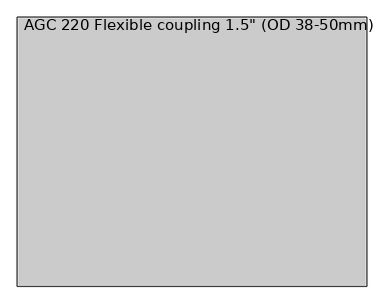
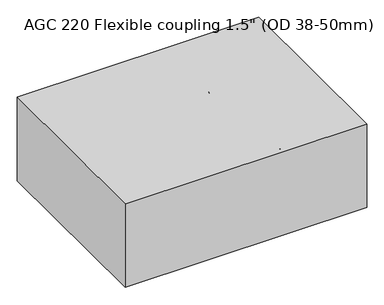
"""IFC4 building model written with IfcOpenShell, lengths in millimetres: unitary equipment geometry."""

from ifc_helpers import new_model, si_unit, point, frame, frame_2d, origin, origin_with_axes, place, context, project, spatial, polyline, circle_curve, ellipse_curve, trimmed, segment, composite_curve, outline, extrude, source, transform, mapped, element, save
from ifc_brep_helpers import plane_surface, cylinder_surface, revolved_surface, advanced_brep


def unitary_equipment_3ba87c7d(model_context):
    return source(origin(), model_context, "Body", "SolidModel", [
        advanced_brep(
        [(-484.5, 277.5, 317.0), (-484.5, 328.5, 317.0), (-478.9, 328.5, 317.0), (-478.9, 277.5, 317.0), (-484.5, 276.5, 317.0), (-484.5, 329.5, 317.0), (-479.6057737, 276.5, 317.0), (-479.6057737, 329.5, 317.0), (-478.0057737, 272.0, 317.0), (-478.0057737, 334.0, 317.0), (-463.6792408, 272.0, 317.0), (-463.6792408, 334.0, 317.0), (-462.1792408, 276.5, 317.0), (-462.1792408, 329.5, 317.0), (-441.1097736, 276.5, 317.0), (-441.1097736, 329.5, 317.0), (-437.1328335, 278.0698448, 317.0), (-437.1328335, 327.9301552, 317.0), (-437.5, 279.0, 317.0), (-437.5, 327.0, 317.0), (-441.3, 277.5, 317.0), (-441.3, 328.5, 317.0), (-462.9, 277.5, 317.0), (-462.9, 328.5, 317.0), (-464.4, 273.0, 317.0), (-464.4, 333.0, 317.0), (-477.3, 273.0, 317.0), (-477.3, 333.0, 317.0)],
        [
            (0, 1, circle_curve(frame((-484.5, 303.0, 317.0), z_axis=(-1.0, 0.0, 0.0), x_axis=(0.0, 1.0, 0.0)), 25.5)),
            (1, 2),
            (2, 3, circle_curve(frame((-478.9, 303.0, 317.0), z_axis=(1.0, 0.0, 0.0), x_axis=(0.0, 1.0, 0.0)), 25.5)),
            (3, 0),
            (1, 0, circle_curve(frame((-484.5, 303.0, 317.0), z_axis=(-1.0, 0.0, 0.0), x_axis=(0.0, 1.0, 0.0)), 25.5)),
            (3, 2, circle_curve(frame((-478.9, 303.0, 317.0), z_axis=(1.0, 0.0, 0.0), x_axis=(0.0, 1.0, 0.0)), 25.5)),
            (4, 5, circle_curve(frame((-484.5, 303.0, 317.0), z_axis=(-1.0, 0.0, 0.0), x_axis=(0.0, 1.0, 0.0)), 26.5)),
            (5, 1),
            (0, 4),
            (5, 4, circle_curve(frame((-484.5, 303.0, 317.0), z_axis=(-1.0, 0.0, 0.0), x_axis=(0.0, 1.0, 0.0)), 26.5)),
            (6, 7, circle_curve(frame((-479.6057737, 303.0, 317.0), z_axis=(-1.0, 0.0, 0.0), x_axis=(0.0, 1.0, 0.0)), 26.5)),
            (7, 5),
            (4, 6),
            (7, 6, circle_curve(frame((-479.6057737, 303.0, 317.0), z_axis=(-1.0, 0.0, 0.0), x_axis=(0.0, 1.0, 0.0)), 26.5)),
            (8, 9, circle_curve(frame((-478.0057737, 303.0, 317.0), z_axis=(-1.0, 0.0, 0.0), x_axis=(0.0, 1.0, 0.0)), 31.0)),
            (9, 7),
            (6, 8),
            (9, 8, circle_curve(frame((-478.0057737, 303.0, 317.0), z_axis=(-1.0, 0.0, 0.0), x_axis=(0.0, 1.0, 0.0)), 31.0)),
            (10, 11, circle_curve(frame((-463.6792408, 303.0, 317.0), z_axis=(-1.0, 0.0, 0.0), x_axis=(0.0, 1.0, 0.0)), 31.0)),
            (11, 9),
            (8, 10),
            (11, 10, circle_curve(frame((-463.6792408, 303.0, 317.0), z_axis=(-1.0, 0.0, 0.0), x_axis=(0.0, 1.0, 0.0)), 31.0)),
            (12, 13, circle_curve(frame((-462.1792408, 303.0, 317.0), z_axis=(-1.0, 0.0, 0.0), x_axis=(0.0, 1.0, 0.0)), 26.5)),
            (13, 11),
            (10, 12),
            (13, 12, circle_curve(frame((-462.1792408, 303.0, 317.0), z_axis=(-1.0, 0.0, 0.0), x_axis=(0.0, 1.0, 0.0)), 26.5)),
            (14, 15, circle_curve(frame((-441.1097736, 303.0, 317.0), z_axis=(-1.0, 0.0, 0.0), x_axis=(0.0, 1.0, 0.0)), 26.5)),
            (15, 13),
            (12, 14),
            (15, 14, circle_curve(frame((-441.1097736, 303.0, 317.0), z_axis=(-1.0, 0.0, 0.0), x_axis=(0.0, 1.0, 0.0)), 26.5)),
            (16, 17, circle_curve(frame((-437.1328335, 303.0, 317.0), z_axis=(-1.0, 0.0, 0.0), x_axis=(0.0, 1.0, 0.0)), 24.9301552)),
            (17, 15),
            (14, 16),
            (17, 16, circle_curve(frame((-437.1328335, 303.0, 317.0), z_axis=(-1.0, 0.0, 0.0), x_axis=(0.0, 1.0, 0.0)), 24.9301552)),
            (18, 19, circle_curve(frame((-437.5, 303.0, 317.0), z_axis=(-1.0, 0.0, 0.0), x_axis=(0.0, 1.0, 0.0)), 24.0)),
            (19, 17),
            (16, 18),
            (19, 18, circle_curve(frame((-437.5, 303.0, 317.0), z_axis=(-1.0, 0.0, 0.0), x_axis=(0.0, 1.0, 0.0)), 24.0)),
            (20, 21, circle_curve(frame((-441.3, 303.0, 317.0), z_axis=(-1.0, 0.0, 0.0), x_axis=(0.0, 1.0, 0.0)), 25.5)),
            (21, 19),
            (18, 20),
            (21, 20, circle_curve(frame((-441.3, 303.0, 317.0), z_axis=(-1.0, 0.0, 0.0), x_axis=(0.0, 1.0, 0.0)), 25.5)),
            (22, 23, circle_curve(frame((-462.9, 303.0, 317.0), z_axis=(-1.0, 0.0, 0.0), x_axis=(0.0, 1.0, 0.0)), 25.5)),
            (23, 21),
            (20, 22),
            (23, 22, circle_curve(frame((-462.9, 303.0, 317.0), z_axis=(-1.0, 0.0, 0.0), x_axis=(0.0, 1.0, 0.0)), 25.5)),
            (24, 25, circle_curve(frame((-464.4, 303.0, 317.0), z_axis=(-1.0, 0.0, 0.0), x_axis=(0.0, 1.0, 0.0)), 30.0)),
            (25, 23),
            (22, 24),
            (25, 24, circle_curve(frame((-464.4, 303.0, 317.0), z_axis=(-1.0, 0.0, 0.0), x_axis=(0.0, 1.0, 0.0)), 30.0)),
            (26, 27, circle_curve(frame((-477.3, 303.0, 317.0), z_axis=(-1.0, 0.0, 0.0), x_axis=(0.0, 1.0, 0.0)), 30.0)),
            (27, 25),
            (24, 26),
            (27, 26, circle_curve(frame((-477.3, 303.0, 317.0), z_axis=(-1.0, 0.0, 0.0), x_axis=(0.0, 1.0, 0.0)), 30.0)),
            (2, 27),
            (26, 3),
        ],
        [
            revolved_surface(polyline([(-478.9, 328.5, 317.0), (-484.5, 328.5, 317.0)]), (-425.031054, 303.0, 317.0), (1.0, 0.0, 0.0)),
            plane_surface(frame((-484.5, 303.0, 317.0), z_axis=(-1.0, 0.0, 0.0), x_axis=(0.0, 1.0, 0.0))),
            cylinder_surface(frame((-425.031054, 303.0, 317.0), z_axis=(1.0, 0.0, 0.0), x_axis=(0.0, 1.0, 0.0)), 26.5),
            revolved_surface(polyline([(-479.6057737, 329.5, 317.0), (-478.0057737, 334.0, 317.0)]), (-425.031054, 303.0, 317.0), (1.0, 0.0, 0.0)),
            cylinder_surface(frame((-425.031054, 303.0, 317.0), z_axis=(1.0, 0.0, 0.0), x_axis=(0.0, 1.0, 0.0)), 31.0),
            revolved_surface(polyline([(-463.6792408, 334.0, 317.0), (-462.1792408, 329.5, 317.0)]), (-425.031054, 303.0, 317.0), (1.0, 0.0, 0.0)),
            revolved_surface(polyline([(-441.1097736, 329.5, 317.0), (-437.1328335, 327.9301552, 317.0)]), (-425.031054, 303.0, 317.0), (1.0, 0.0, 0.0)),
            revolved_surface(polyline([(-437.1328335, 327.9301552, 317.0), (-437.5, 327.0, 317.0)]), (-425.031054, 303.0, 317.0), (1.0, 0.0, 0.0)),
            revolved_surface(polyline([(-437.5, 327.0, 317.0), (-441.3, 328.5, 317.0)]), (-425.031054, 303.0, 317.0), (1.0, 0.0, 0.0)),
            revolved_surface(polyline([(-441.3, 328.5, 317.0), (-462.9, 328.5, 317.0)]), (-425.031054, 303.0, 317.0), (1.0, 0.0, 0.0)),
            revolved_surface(polyline([(-462.9, 328.5, 317.0), (-464.4, 333.0, 317.0)]), (-425.031054, 303.0, 317.0), (1.0, 0.0, 0.0)),
            revolved_surface(polyline([(-464.4, 333.0, 317.0), (-477.3, 333.0, 317.0)]), (-425.031054, 303.0, 317.0), (1.0, 0.0, 0.0)),
            revolved_surface(polyline([(-477.3, 333.0, 317.0), (-478.9, 328.5, 317.0)]), (-425.031054, 303.0, 317.0), (1.0, 0.0, 0.0)),
        ],
        [
            (0, [[1, 2, 3, 4]]),
            (0, [[5, -4, 6, -2]]),
            (1, [[7, 8, -1, 9]]),
            (1, [[10, -9, -5, -8]]),
            (2, [[11, 12, -7, 13]]),
            (2, [[14, -13, -10, -12]]),
            (3, [[15, 16, -11, 17]]),
            (3, [[18, -17, -14, -16]]),
            (4, [[19, 20, -15, 21]]),
            (4, [[22, -21, -18, -20]]),
            (5, [[23, 24, -19, 25]]),
            (5, [[26, -25, -22, -24]]),
            (2, [[27, 28, -23, 29]]),
            (2, [[30, -29, -26, -28]]),
            (6, [[31, 32, -27, 33]]),
            (6, [[34, -33, -30, -32]]),
            (7, [[35, 36, -31, 37]]),
            (7, [[38, -37, -34, -36]]),
            (8, [[39, 40, -35, 41]]),
            (8, [[42, -41, -38, -40]]),
            (9, [[43, 44, -39, 45]]),
            (9, [[46, -45, -42, -44]]),
            (10, [[47, 48, -43, 49]]),
            (10, [[50, -49, -46, -48]]),
            (11, [[51, 52, -47, 53]]),
            (11, [[54, -53, -50, -52]]),
            (12, [[-3, 55, -51, 56]]),
            (12, [[-6, -56, -54, -55]]),
        ],
    ),
        advanced_brep(
        [(-372.5, 251.8, 317.0), (-432.5, 251.8, 317.0), (-428.0, 253.4, 317.0), (-377.0, 253.4, 317.0), (-372.5, 238.9, 317.0), (-432.5, 238.9, 317.0), (-377.0, 237.4, 317.0), (-428.0, 237.4, 317.0), (-377.0, 217.0, 317.0), (-428.0, 217.0, 317.0), (-378.5, 212.0, 317.0), (-426.5, 212.0, 317.0), (-377.5421737, 211.7126521, 317.0), (-427.4578263, 211.7126521, 317.0), (-376.0, 216.8532312, 317.0), (-429.0, 216.8532312, 317.0), (-376.0, 236.6792408, 317.0), (-429.0, 236.6792408, 317.0), (-371.7425527, 238.0983899, 317.0), (-433.2574473, 238.0983899, 317.0), (-371.7425527, 252.5920147, 317.0), (-433.2574473, 252.5920147, 317.0), (-376.0, 254.1057737, 317.0), (-429.0, 254.1057737, 317.0), (-376.0, 259.0, 317.0), (-429.0, 259.0, 317.0), (-377.0, 259.0, 317.0), (-428.0, 259.0, 317.0)],
        [
            (0, 1, circle_curve(frame((-402.5, 251.8, 317.0), z_axis=(0.0, -1.0, 0.0), x_axis=(-1.0, 0.0, 0.0)), 30.0)),
            (1, 2),
            (2, 3, circle_curve(frame((-402.5, 253.4, 317.0), z_axis=(0.0, 1.0, 0.0), x_axis=(-1.0, 0.0, 0.0)), 25.5)),
            (3, 0),
            (1, 0, circle_curve(frame((-402.5, 251.8, 317.0), z_axis=(0.0, -1.0, 0.0), x_axis=(-1.0, 0.0, 0.0)), 30.0)),
            (3, 2, circle_curve(frame((-402.5, 253.4, 317.0), z_axis=(0.0, 1.0, 0.0), x_axis=(-1.0, 0.0, 0.0)), 25.5)),
            (4, 5, circle_curve(frame((-402.5, 238.9, 317.0), z_axis=(0.0, -1.0, 0.0), x_axis=(-1.0, 0.0, 0.0)), 30.0)),
            (5, 1),
            (0, 4),
            (5, 4, circle_curve(frame((-402.5, 238.9, 317.0), z_axis=(0.0, -1.0, 0.0), x_axis=(-1.0, 0.0, 0.0)), 30.0)),
            (6, 7, circle_curve(frame((-402.5, 237.4, 317.0), z_axis=(0.0, -1.0, 0.0), x_axis=(-1.0, 0.0, 0.0)), 25.5)),
            (7, 5),
            (4, 6),
            (7, 6, circle_curve(frame((-402.5, 237.4, 317.0), z_axis=(0.0, -1.0, 0.0), x_axis=(-1.0, 0.0, 0.0)), 25.5)),
            (8, 9, circle_curve(frame((-402.5, 217.0, 317.0), z_axis=(0.0, -1.0, 0.0), x_axis=(-1.0, 0.0, 0.0)), 25.5)),
            (9, 7),
            (6, 8),
            (9, 8, circle_curve(frame((-402.5, 217.0, 317.0), z_axis=(0.0, -1.0, 0.0), x_axis=(-1.0, 0.0, 0.0)), 25.5)),
            (10, 11, circle_curve(frame((-402.5, 212.0, 317.0), z_axis=(0.0, -1.0, 0.0), x_axis=(-1.0, 0.0, 0.0)), 24.0)),
            (11, 9),
            (8, 10),
            (11, 10, circle_curve(frame((-402.5, 212.0, 317.0), z_axis=(0.0, -1.0, 0.0), x_axis=(-1.0, 0.0, 0.0)), 24.0)),
            (12, 13, circle_curve(frame((-402.5, 211.7126521, 317.0), z_axis=(0.0, -1.0, 0.0), x_axis=(-1.0, 0.0, 0.0)), 24.9578263)),
            (13, 11),
            (10, 12),
            (13, 12, circle_curve(frame((-402.5, 211.7126521, 317.0), z_axis=(0.0, -1.0, 0.0), x_axis=(-1.0, 0.0, 0.0)), 24.9578263)),
            (14, 15, circle_curve(frame((-402.5, 216.8532312, 317.0), z_axis=(0.0, -1.0, 0.0), x_axis=(-1.0, 0.0, 0.0)), 26.5)),
            (15, 13),
            (12, 14),
            (15, 14, circle_curve(frame((-402.5, 216.8532312, 317.0), z_axis=(0.0, -1.0, 0.0), x_axis=(-1.0, 0.0, 0.0)), 26.5)),
            (16, 17, circle_curve(frame((-402.5, 236.6792408, 317.0), z_axis=(0.0, -1.0, 0.0), x_axis=(-1.0, 0.0, 0.0)), 26.5)),
            (17, 15),
            (14, 16),
            (17, 16, circle_curve(frame((-402.5, 236.6792408, 317.0), z_axis=(0.0, -1.0, 0.0), x_axis=(-1.0, 0.0, 0.0)), 26.5)),
            (18, 19, circle_curve(frame((-402.5, 238.0983899, 317.0), z_axis=(0.0, -1.0, 0.0), x_axis=(-1.0, 0.0, 0.0)), 30.7574473)),
            (19, 17),
            (16, 18),
            (19, 18, circle_curve(frame((-402.5, 238.0983899, 317.0), z_axis=(0.0, -1.0, 0.0), x_axis=(-1.0, 0.0, 0.0)), 30.7574473)),
            (20, 21, circle_curve(frame((-402.5, 252.5920147, 317.0), z_axis=(0.0, -1.0, 0.0), x_axis=(-1.0, 0.0, 0.0)), 30.7574473)),
            (21, 19),
            (18, 20),
            (21, 20, circle_curve(frame((-402.5, 252.5920147, 317.0), z_axis=(0.0, -1.0, 0.0), x_axis=(-1.0, 0.0, 0.0)), 30.7574473)),
            (22, 23, circle_curve(frame((-402.5, 254.1057737, 317.0), z_axis=(0.0, -1.0, 0.0), x_axis=(-1.0, 0.0, 0.0)), 26.5)),
            (23, 21),
            (20, 22),
            (23, 22, circle_curve(frame((-402.5, 254.1057737, 317.0), z_axis=(0.0, -1.0, 0.0), x_axis=(-1.0, 0.0, 0.0)), 26.5)),
            (24, 25, circle_curve(frame((-402.5, 259.0, 317.0), z_axis=(0.0, -1.0, 0.0), x_axis=(-1.0, 0.0, 0.0)), 26.5)),
            (25, 23),
            (22, 24),
            (25, 24, circle_curve(frame((-402.5, 259.0, 317.0), z_axis=(0.0, -1.0, 0.0), x_axis=(-1.0, 0.0, 0.0)), 26.5)),
            (26, 27, circle_curve(frame((-402.5, 259.0, 317.0), z_axis=(0.0, -1.0, 0.0), x_axis=(-1.0, 0.0, 0.0)), 25.5)),
            (27, 25),
            (24, 26),
            (27, 26, circle_curve(frame((-402.5, 259.0, 317.0), z_axis=(0.0, -1.0, 0.0), x_axis=(-1.0, 0.0, 0.0)), 25.5)),
            (2, 27),
            (26, 3),
        ],
        [
            revolved_surface(polyline([(-428.0, 253.4, 317.0), (-432.5, 251.8, 317.0)]), (-402.5, 256.2050583, 317.0), (0.0, 1.0, 0.0)),
            revolved_surface(polyline([(-432.5, 251.8, 317.0), (-432.5, 238.9, 317.0)]), (-402.5, 256.2050583, 317.0), (0.0, 1.0, 0.0)),
            revolved_surface(polyline([(-432.5, 238.9, 317.0), (-428.0, 237.4, 317.0)]), (-402.5, 256.2050583, 317.0), (0.0, 1.0, 0.0)),
            revolved_surface(polyline([(-428.0, 237.4, 317.0), (-428.0, 217.0, 317.0)]), (-402.5, 256.2050583, 317.0), (0.0, 1.0, 0.0)),
            revolved_surface(polyline([(-428.0, 217.0, 317.0), (-426.5, 212.0, 317.0)]), (-402.5, 256.2050583, 317.0), (0.0, 1.0, 0.0)),
            revolved_surface(polyline([(-426.5, 212.0, 317.0), (-427.4578263, 211.7126521, 317.0)]), (-402.5, 256.2050583, 317.0), (0.0, 1.0, 0.0)),
            revolved_surface(polyline([(-427.4578263, 211.7126521, 317.0), (-429.0, 216.8532312, 317.0)]), (-402.5, 256.2050583, 317.0), (0.0, 1.0, 0.0)),
            cylinder_surface(frame((-402.5, 256.2050583, 317.0), z_axis=(0.0, 1.0, 0.0), x_axis=(-1.0, 0.0, 0.0)), 26.5),
            revolved_surface(polyline([(-429.0, 236.6792408, 317.0), (-433.2574473, 238.0983899, 317.0)]), (-402.5, 256.2050583, 317.0), (0.0, 1.0, 0.0)),
            cylinder_surface(frame((-402.5, 256.2050583, 317.0), z_axis=(0.0, 1.0, 0.0), x_axis=(-1.0, 0.0, 0.0)), 30.7574473),
            revolved_surface(polyline([(-433.2574473, 252.5920147, 317.0), (-429.0, 254.1057737, 317.0)]), (-402.5, 256.2050583, 317.0), (0.0, 1.0, 0.0)),
            plane_surface(frame((-402.5, 259.0, 317.0), z_axis=(0.0, 1.0, 0.0), x_axis=(-1.0, 0.0, 0.0))),
            revolved_surface(polyline([(-428.0, 259.0, 317.0), (-428.0, 253.4, 317.0)]), (-402.5, 256.2050583, 317.0), (0.0, 1.0, 0.0)),
        ],
        [
            (0, [[1, 2, 3, 4]]),
            (0, [[5, -4, 6, -2]]),
            (1, [[7, 8, -1, 9]]),
            (1, [[10, -9, -5, -8]]),
            (2, [[11, 12, -7, 13]]),
            (2, [[14, -13, -10, -12]]),
            (3, [[15, 16, -11, 17]]),
            (3, [[18, -17, -14, -16]]),
            (4, [[19, 20, -15, 21]]),
            (4, [[22, -21, -18, -20]]),
            (5, [[23, 24, -19, 25]]),
            (5, [[26, -25, -22, -24]]),
            (6, [[27, 28, -23, 29]]),
            (6, [[30, -29, -26, -28]]),
            (7, [[31, 32, -27, 33]]),
            (7, [[34, -33, -30, -32]]),
            (8, [[35, 36, -31, 37]]),
            (8, [[38, -37, -34, -36]]),
            (9, [[39, 40, -35, 41]]),
            (9, [[42, -41, -38, -40]]),
            (10, [[43, 44, -39, 45]]),
            (10, [[46, -45, -42, -44]]),
            (7, [[47, 48, -43, 49]]),
            (7, [[50, -49, -46, -48]]),
            (11, [[51, 52, -47, 53]]),
            (11, [[54, -53, -50, -52]]),
            (12, [[-3, 55, -51, 56]]),
            (12, [[-6, -56, -54, -55]]),
        ],
    ),
        advanced_brep(
        [(-427.5, 273.0, 317.0), (-432.5, 278.0, 317.0), (-432.5, 328.0, 317.0), (-377.5, 273.0, 317.0), (-442.5, 328.0, 317.0), (-442.5, 278.0, 317.0), (-377.5, 217.0, 317.0), (-427.5, 217.0, 317.0)],
        [
            (0, 1, circle_curve(frame((-432.5, 273.0, 317.0), z_axis=(0.0, 0.0, 1.0), x_axis=(0.0, 1.0, 0.0)), 5.0)),
            (1, 2, circle_curve(frame((-432.5, 303.0, 317.0), z_axis=(1.0, 0.0, 0.0), x_axis=(0.0, -1.0, 0.0)), 25.0)),
            (2, 3, circle_curve(frame((-432.5, 273.0, 317.0), z_axis=(0.0, 0.0, -1.0), x_axis=(0.0, 1.0, 0.0)), 55.0)),
            (3, 0, circle_curve(frame((-402.5, 273.0, 317.0), z_axis=(0.0, 1.0, 0.0), x_axis=(-1.0, 0.0, 0.0)), 25.0)),
            (0, 3, circle_curve(frame((-402.5, 273.0, 317.0), z_axis=(0.0, 1.0, 0.0), x_axis=(-1.0, 0.0, 0.0)), 25.0)),
            (2, 1, circle_curve(frame((-432.5, 303.0, 317.0), z_axis=(1.0, 0.0, 0.0), x_axis=(0.0, -1.0, 0.0)), 25.0)),
            (4, 5, circle_curve(frame((-442.5, 303.0, 317.0), z_axis=(-1.0, 0.0, 0.0), x_axis=(0.0, -1.0, 0.0)), 25.0)),
            (5, 4, circle_curve(frame((-442.5, 303.0, 317.0), z_axis=(-1.0, 0.0, 0.0), x_axis=(0.0, -1.0, 0.0)), 25.0)),
            (5, 1),
            (2, 4),
            (6, 7, circle_curve(frame((-402.5, 217.0, 317.0), z_axis=(0.0, -1.0, 0.0), x_axis=(-1.0, 0.0, 0.0)), 25.0)),
            (7, 6, circle_curve(frame((-402.5, 217.0, 317.0), z_axis=(0.0, -1.0, 0.0), x_axis=(-1.0, 0.0, 0.0)), 25.0)),
            (7, 0),
            (3, 6),
        ],
        [
            revolved_surface(trimmed(ellipse_curve(frame((-432.5, 303.0, 317.0), z_axis=(-1.0, 0.0, 0.0), x_axis=(0.0, -1.0, 0.0)), 25.0, 25.0), [point((-432.5, 328.0, 317.0))], [point((-432.5, 278.0, 317.0))], True, "CARTESIAN"), (-432.5, 273.0, 317.0), (0.0, 0.0, -1.0)),
            revolved_surface(trimmed(ellipse_curve(frame((-432.5, 303.0, 317.0), z_axis=(-1.0, 0.0, 0.0), x_axis=(0.0, -1.0, 0.0)), 25.0, 25.0), [point((-432.5, 278.0, 317.0))], [point((-432.5, 328.0, 317.0))], True, "CARTESIAN"), (-432.5, 273.0, 317.0), (0.0, 0.0, -1.0)),
            plane_surface(frame((-442.5, 278.0, 317.0), z_axis=(-1.0, 0.0, 0.0), x_axis=(0.0, 0.0, 1.0))),
            cylinder_surface(frame((-442.5, 303.0, 317.0), z_axis=(1.0, 0.0, 0.0), x_axis=(0.0, -1.0, 0.0)), 25.0),
            plane_surface(frame((-402.5, 217.0, 317.0), z_axis=(0.0, -1.0, 0.0), x_axis=(0.0, 0.0, -1.0))),
            cylinder_surface(frame((-402.5, 273.0, 317.0), z_axis=(0.0, 1.0, 0.0), x_axis=(-1.0, 0.0, 0.0)), 25.0),
        ],
        [
            (0, [[1, 2, 3, 4]]),
            (1, [[-1, 5, -3, 6]]),
            (2, [[7, 8]]),
            (3, [[-8, 9, -6, 10]]),
            (3, [[-7, -10, -2, -9]]),
            (4, [[11, 12]]),
            (5, [[-12, 13, -4, 14]]),
            (5, [[-11, -14, -5, -13]]),
        ],
    ),
        advanced_brep(
        [(478.5, 219.0, 229.0), (529.5, 219.0, 229.0), (529.5, 224.6, 229.0), (478.5, 224.6, 229.0), (477.5, 219.0, 229.0), (530.5, 219.0, 229.0), (477.5, 223.8942263, 229.0), (530.5, 223.8942263, 229.0), (473.0, 225.4942263, 229.0), (535.0, 225.4942263, 229.0), (473.0, 239.8207592, 229.0), (535.0, 239.8207592, 229.0), (477.5, 241.3207592, 229.0), (530.5, 241.3207592, 229.0), (477.5, 262.3902264, 229.0), (530.5, 262.3902264, 229.0), (479.0698448, 266.3671665, 229.0), (528.9301552, 266.3671665, 229.0), (480.0, 266.0, 229.0), (528.0, 266.0, 229.0), (478.5, 262.2, 229.0), (529.5, 262.2, 229.0), (478.5, 240.6, 229.0), (529.5, 240.6, 229.0), (474.0, 239.1, 229.0), (534.0, 239.1, 229.0), (474.0, 226.2, 229.0), (534.0, 226.2, 229.0)],
        [
            (0, 1, circle_curve(frame((504.0, 219.0, 229.0), z_axis=(0.0, -1.0, 0.0), x_axis=(1.0, 0.0, 0.0)), 25.5)),
            (1, 2),
            (2, 3, circle_curve(frame((504.0, 224.6, 229.0), z_axis=(0.0, 1.0, 0.0), x_axis=(1.0, 0.0, 0.0)), 25.5)),
            (3, 0),
            (1, 0, circle_curve(frame((504.0, 219.0, 229.0), z_axis=(0.0, -1.0, 0.0), x_axis=(1.0, 0.0, 0.0)), 25.5)),
            (3, 2, circle_curve(frame((504.0, 224.6, 229.0), z_axis=(0.0, 1.0, 0.0), x_axis=(1.0, 0.0, 0.0)), 25.5)),
            (4, 5, circle_curve(frame((504.0, 219.0, 229.0), z_axis=(0.0, -1.0, 0.0), x_axis=(1.0, 0.0, 0.0)), 26.5)),
            (5, 1),
            (0, 4),
            (5, 4, circle_curve(frame((504.0, 219.0, 229.0), z_axis=(0.0, -1.0, 0.0), x_axis=(1.0, 0.0, 0.0)), 26.5)),
            (6, 7, circle_curve(frame((504.0, 223.8942263, 229.0), z_axis=(0.0, -1.0, 0.0), x_axis=(1.0, 0.0, 0.0)), 26.5)),
            (7, 5),
            (4, 6),
            (7, 6, circle_curve(frame((504.0, 223.8942263, 229.0), z_axis=(0.0, -1.0, 0.0), x_axis=(1.0, 0.0, 0.0)), 26.5)),
            (8, 9, circle_curve(frame((504.0, 225.4942263, 229.0), z_axis=(0.0, -1.0, 0.0), x_axis=(1.0, 0.0, 0.0)), 31.0)),
            (9, 7),
            (6, 8),
            (9, 8, circle_curve(frame((504.0, 225.4942263, 229.0), z_axis=(0.0, -1.0, 0.0), x_axis=(1.0, 0.0, 0.0)), 31.0)),
            (10, 11, circle_curve(frame((504.0, 239.8207592, 229.0), z_axis=(0.0, -1.0, 0.0), x_axis=(1.0, 0.0, 0.0)), 31.0)),
            (11, 9),
            (8, 10),
            (11, 10, circle_curve(frame((504.0, 239.8207592, 229.0), z_axis=(0.0, -1.0, 0.0), x_axis=(1.0, 0.0, 0.0)), 31.0)),
            (12, 13, circle_curve(frame((504.0, 241.3207592, 229.0), z_axis=(0.0, -1.0, 0.0), x_axis=(1.0, 0.0, 0.0)), 26.5)),
            (13, 11),
            (10, 12),
            (13, 12, circle_curve(frame((504.0, 241.3207592, 229.0), z_axis=(0.0, -1.0, 0.0), x_axis=(1.0, 0.0, 0.0)), 26.5)),
            (14, 15, circle_curve(frame((504.0, 262.3902264, 229.0), z_axis=(0.0, -1.0, 0.0), x_axis=(1.0, 0.0, 0.0)), 26.5)),
            (15, 13),
            (12, 14),
            (15, 14, circle_curve(frame((504.0, 262.3902264, 229.0), z_axis=(0.0, -1.0, 0.0), x_axis=(1.0, 0.0, 0.0)), 26.5)),
            (16, 17, circle_curve(frame((504.0, 266.3671665, 229.0), z_axis=(0.0, -1.0, 0.0), x_axis=(1.0, 0.0, 0.0)), 24.9301552)),
            (17, 15),
            (14, 16),
            (17, 16, circle_curve(frame((504.0, 266.3671665, 229.0), z_axis=(0.0, -1.0, 0.0), x_axis=(1.0, 0.0, 0.0)), 24.9301552)),
            (18, 19, circle_curve(frame((504.0, 266.0, 229.0), z_axis=(0.0, -1.0, 0.0), x_axis=(1.0, 0.0, 0.0)), 24.0)),
            (19, 17),
            (16, 18),
            (19, 18, circle_curve(frame((504.0, 266.0, 229.0), z_axis=(0.0, -1.0, 0.0), x_axis=(1.0, 0.0, 0.0)), 24.0)),
            (20, 21, circle_curve(frame((504.0, 262.2, 229.0), z_axis=(0.0, -1.0, 0.0), x_axis=(1.0, 0.0, 0.0)), 25.5)),
            (21, 19),
            (18, 20),
            (21, 20, circle_curve(frame((504.0, 262.2, 229.0), z_axis=(0.0, -1.0, 0.0), x_axis=(1.0, 0.0, 0.0)), 25.5)),
            (22, 23, circle_curve(frame((504.0, 240.6, 229.0), z_axis=(0.0, -1.0, 0.0), x_axis=(1.0, 0.0, 0.0)), 25.5)),
            (23, 21),
            (20, 22),
            (23, 22, circle_curve(frame((504.0, 240.6, 229.0), z_axis=(0.0, -1.0, 0.0), x_axis=(1.0, 0.0, 0.0)), 25.5)),
            (24, 25, circle_curve(frame((504.0, 239.1, 229.0), z_axis=(0.0, -1.0, 0.0), x_axis=(1.0, 0.0, 0.0)), 30.0)),
            (25, 23),
            (22, 24),
            (25, 24, circle_curve(frame((504.0, 239.1, 229.0), z_axis=(0.0, -1.0, 0.0), x_axis=(1.0, 0.0, 0.0)), 30.0)),
            (26, 27, circle_curve(frame((504.0, 226.2, 229.0), z_axis=(0.0, -1.0, 0.0), x_axis=(1.0, 0.0, 0.0)), 30.0)),
            (27, 25),
            (24, 26),
            (27, 26, circle_curve(frame((504.0, 226.2, 229.0), z_axis=(0.0, -1.0, 0.0), x_axis=(1.0, 0.0, 0.0)), 30.0)),
            (2, 27),
            (26, 3),
        ],
        [
            revolved_surface(polyline([(529.5, 224.6, 229.0), (529.5, 219.0, 229.0)]), (504.0, 278.468946, 229.0), (0.0, 1.0, 0.0)),
            plane_surface(frame((504.0, 219.0, 229.0), z_axis=(0.0, -1.0, 0.0), x_axis=(1.0, 0.0, 0.0))),
            cylinder_surface(frame((504.0, 278.468946, 229.0), z_axis=(0.0, 1.0, 0.0), x_axis=(1.0, 0.0, 0.0)), 26.5),
            revolved_surface(polyline([(530.5, 223.8942263, 229.0), (535.0, 225.4942263, 229.0)]), (504.0, 278.468946, 229.0), (0.0, 1.0, 0.0)),
            cylinder_surface(frame((504.0, 278.468946, 229.0), z_axis=(0.0, 1.0, 0.0), x_axis=(1.0, 0.0, 0.0)), 31.0),
            revolved_surface(polyline([(535.0, 239.8207592, 229.0), (530.5, 241.3207592, 229.0)]), (504.0, 278.468946, 229.0), (0.0, 1.0, 0.0)),
            revolved_surface(polyline([(530.5, 262.3902264, 229.0), (528.9301552, 266.3671665, 229.0)]), (504.0, 278.468946, 229.0), (0.0, 1.0, 0.0)),
            revolved_surface(polyline([(528.9301552, 266.3671665, 229.0), (528.0, 266.0, 229.0)]), (504.0, 278.468946, 229.0), (0.0, 1.0, 0.0)),
            revolved_surface(polyline([(528.0, 266.0, 229.0), (529.5, 262.2, 229.0)]), (504.0, 278.468946, 229.0), (0.0, 1.0, 0.0)),
            revolved_surface(polyline([(529.5, 262.2, 229.0), (529.5, 240.6, 229.0)]), (504.0, 278.468946, 229.0), (0.0, 1.0, 0.0)),
            revolved_surface(polyline([(529.5, 240.6, 229.0), (534.0, 239.1, 229.0)]), (504.0, 278.468946, 229.0), (0.0, 1.0, 0.0)),
            revolved_surface(polyline([(534.0, 239.1, 229.0), (534.0, 226.2, 229.0)]), (504.0, 278.468946, 229.0), (0.0, 1.0, 0.0)),
            revolved_surface(polyline([(534.0, 226.2, 229.0), (529.5, 224.6, 229.0)]), (504.0, 278.468946, 229.0), (0.0, 1.0, 0.0)),
        ],
        [
            (0, [[1, 2, 3, 4]]),
            (0, [[5, -4, 6, -2]]),
            (1, [[7, 8, -1, 9]]),
            (1, [[10, -9, -5, -8]]),
            (2, [[11, 12, -7, 13]]),
            (2, [[14, -13, -10, -12]]),
            (3, [[15, 16, -11, 17]]),
            (3, [[18, -17, -14, -16]]),
            (4, [[19, 20, -15, 21]]),
            (4, [[22, -21, -18, -20]]),
            (5, [[23, 24, -19, 25]]),
            (5, [[26, -25, -22, -24]]),
            (2, [[27, 28, -23, 29]]),
            (2, [[30, -29, -26, -28]]),
            (6, [[31, 32, -27, 33]]),
            (6, [[34, -33, -30, -32]]),
            (7, [[35, 36, -31, 37]]),
            (7, [[38, -37, -34, -36]]),
            (8, [[39, 40, -35, 41]]),
            (8, [[42, -41, -38, -40]]),
            (9, [[43, 44, -39, 45]]),
            (9, [[46, -45, -42, -44]]),
            (10, [[47, 48, -43, 49]]),
            (10, [[50, -49, -46, -48]]),
            (11, [[51, 52, -47, 53]]),
            (11, [[54, -53, -50, -52]]),
            (12, [[-3, 55, -51, 56]]),
            (12, [[-6, -56, -54, -55]]),
        ],
    ),
        advanced_brep(
        [(529.0, 271.0, 229.0), (534.0, 276.0, 229.0), (534.0, 326.0, 229.0), (479.0, 271.0, 229.0), (590.0, 326.0, 229.0), (590.0, 276.0, 229.0), (479.0, 261.0, 229.0), (529.0, 261.0, 229.0)],
        [
            (0, 1, circle_curve(frame((534.0, 271.0, 229.0), z_axis=(0.0, 0.0, -1.0), x_axis=(0.0, 1.0, 0.0)), 5.0)),
            (1, 2, circle_curve(frame((534.0, 301.0, 229.0), z_axis=(-1.0, 0.0, 0.0), x_axis=(0.0, -1.0, 0.0)), 25.0)),
            (2, 3, circle_curve(frame((534.0, 271.0, 229.0), z_axis=(0.0, 0.0, 1.0), x_axis=(0.0, 1.0, 0.0)), 55.0)),
            (3, 0, circle_curve(frame((504.0, 271.0, 229.0), z_axis=(0.0, 1.0, 0.0), x_axis=(1.0, 0.0, 0.0)), 25.0)),
            (0, 3, circle_curve(frame((504.0, 271.0, 229.0), z_axis=(0.0, 1.0, 0.0), x_axis=(1.0, 0.0, 0.0)), 25.0)),
            (2, 1, circle_curve(frame((534.0, 301.0, 229.0), z_axis=(-1.0, 0.0, 0.0), x_axis=(0.0, -1.0, 0.0)), 25.0)),
            (4, 5, circle_curve(frame((590.0, 301.0, 229.0), z_axis=(1.0, 0.0, 0.0), x_axis=(0.0, -1.0, 0.0)), 25.0)),
            (5, 4, circle_curve(frame((590.0, 301.0, 229.0), z_axis=(1.0, 0.0, 0.0), x_axis=(0.0, -1.0, 0.0)), 25.0)),
            (5, 1),
            (2, 4),
            (6, 7, circle_curve(frame((504.0, 261.0, 229.0), z_axis=(0.0, -1.0, 0.0), x_axis=(1.0, 0.0, 0.0)), 25.0)),
            (7, 6, circle_curve(frame((504.0, 261.0, 229.0), z_axis=(0.0, -1.0, 0.0), x_axis=(1.0, 0.0, 0.0)), 25.0)),
            (7, 0),
            (3, 6),
        ],
        [
            revolved_surface(trimmed(ellipse_curve(frame((534.0, 301.0, 229.0), z_axis=(1.0, 0.0, 0.0), x_axis=(0.0, -1.0, 0.0)), 25.0, 25.0), [point((534.0, 326.0, 229.0))], [point((534.0, 276.0, 229.0))], True, "CARTESIAN"), (534.0, 271.0, 229.0), (0.0, 0.0, 1.0)),
            revolved_surface(trimmed(ellipse_curve(frame((534.0, 301.0, 229.0), z_axis=(1.0, 0.0, 0.0), x_axis=(0.0, -1.0, 0.0)), 25.0, 25.0), [point((534.0, 276.0, 229.0))], [point((534.0, 326.0, 229.0))], True, "CARTESIAN"), (534.0, 271.0, 229.0), (0.0, 0.0, 1.0)),
            plane_surface(frame((590.0, 276.0, 229.0), z_axis=(1.0, 0.0, 0.0), x_axis=(0.0, 0.0, -1.0))),
            cylinder_surface(frame((590.0, 301.0, 229.0), z_axis=(-1.0, 0.0, 0.0), x_axis=(0.0, -1.0, 0.0)), 25.0),
            plane_surface(frame((504.0, 261.0, 229.0), z_axis=(0.0, -1.0, 0.0), x_axis=(0.0, 0.0, 1.0))),
            cylinder_surface(frame((504.0, 271.0, 229.0), z_axis=(0.0, 1.0, 0.0), x_axis=(1.0, 0.0, 0.0)), 25.0),
        ],
        [
            (0, [[1, 2, 3, 4]]),
            (1, [[-1, 5, -3, 6]]),
            (2, [[7, 8]]),
            (3, [[-8, 9, -6, 10]]),
            (3, [[-7, -10, -2, -9]]),
            (4, [[11, 12]]),
            (5, [[-12, 13, -4, 14]]),
            (5, [[-11, -14, -5, -13]]),
        ],
    ),
        advanced_brep(
        [(-524.5, 303.0, 290.35), (-524.5, 303.0, 343.65), (-524.5, 303.0, 337.0), (-524.5, 303.0, 297.0), (-484.5, 303.0, 285.35), (-484.5, 303.0, 348.65), (-444.805919, 303.0, 285.35), (-444.805919, 303.0, 348.65), (-444.805919, 303.0, 292.0), (-444.805919, 303.0, 342.0), (-484.5, 303.0, 292.0), (-484.5, 303.0, 342.0)],
        [
            (0, 1, circle_curve(frame((-524.5, 303.0, 317.0), z_axis=(-1.0, 0.0, 0.0), x_axis=(0.0, 0.0, -1.0)), 26.65)),
            (1, 0, circle_curve(frame((-524.5, 303.0, 317.0), z_axis=(-1.0, 0.0, 0.0), x_axis=(0.0, 0.0, 1.0)), 26.65)),
            (2, 3, circle_curve(frame((-524.5, 303.0, 317.0), z_axis=(1.0, 0.0, 0.0), x_axis=(0.0, 0.0, -1.0)), 20.0)),
            (3, 2, circle_curve(frame((-524.5, 303.0, 317.0), z_axis=(1.0, 0.0, 0.0), x_axis=(0.0, 0.0, 1.0)), 20.0)),
            (0, 4),
            (4, 5, circle_curve(frame((-484.5, 303.0, 317.0), z_axis=(-1.0, 0.0, 0.0), x_axis=(0.0, 0.0, -1.0)), 31.65)),
            (5, 1),
            (5, 4, circle_curve(frame((-484.5, 303.0, 317.0), z_axis=(-1.0, 0.0, 0.0), x_axis=(0.0, 0.0, 1.0)), 31.65)),
            (6, 7, circle_curve(frame((-444.805919, 303.0, 317.0), z_axis=(1.0, 0.0, 0.0), x_axis=(0.0, 0.0, 1.0)), 31.65)),
            (7, 6, circle_curve(frame((-444.805919, 303.0, 317.0), z_axis=(1.0, 0.0, 0.0), x_axis=(0.0, 0.0, 1.0)), 31.65)),
            (8, 9, circle_curve(frame((-444.805919, 303.0, 317.0), z_axis=(-1.0, 0.0, 0.0), x_axis=(0.0, 0.0, 1.0)), 25.0)),
            (9, 8, circle_curve(frame((-444.805919, 303.0, 317.0), z_axis=(-1.0, 0.0, 0.0), x_axis=(0.0, 0.0, 1.0)), 25.0)),
            (7, 5),
            (4, 6),
            (8, 10),
            (10, 11, circle_curve(frame((-484.5, 303.0, 317.0), z_axis=(-1.0, 0.0, 0.0), x_axis=(0.0, 0.0, 1.0)), 25.0)),
            (11, 9),
            (11, 10, circle_curve(frame((-484.5, 303.0, 317.0), z_axis=(-1.0, 0.0, 0.0), x_axis=(0.0, 0.0, 1.0)), 25.0)),
            (10, 3),
            (2, 11),
        ],
        [
            plane_surface(frame((-524.5, 303.0, 317.0), z_axis=(-1.0, 0.0, 0.0), x_axis=(0.0, 1.0, 0.0))),
            revolved_surface(polyline([(-524.5, 303.0, 290.35), (-484.5, 303.0, 285.35)]), (-737.7, 303.0, 317.0), (1.0, 0.0, 0.0)),
            revolved_surface(polyline([(-524.5, 303.0, 343.65), (-484.5, 303.0, 348.65)]), (-737.7, 303.0, 317.0), (1.0, 0.0, 0.0)),
            plane_surface(frame((-444.805919, 303.0, 348.65), z_axis=(1.0, 0.0, 0.0), x_axis=(0.0, -1.0, 0.0))),
            cylinder_surface(frame((-484.5, 303.0, 317.0), z_axis=(1.0, 0.0, 0.0), x_axis=(0.0, 0.0, 1.0)), 31.65),
            revolved_surface(polyline([(-484.5, 303.0, 342.0), (-444.805919, 303.0, 342.0)]), (-484.5, 303.0, 317.0), (-1.0, 0.0, 0.0)),
            revolved_surface(polyline([(-484.5, 303.0, 292.0), (-524.5, 303.0, 297.0)]), (-684.5, 303.0, 317.0), (1.0, 0.0, 0.0)),
        ],
        [
            (0, [[1, 2], [3, 4]]),
            (1, [[-1, 5, 6, 7]]),
            (2, [[-2, -7, 8, -5]]),
            (3, [[9, 10], [11, 12]]),
            (4, [[-10, 13, -6, 14]]),
            (4, [[-9, -14, -8, -13]]),
            (5, [[-11, 15, 16, 17]]),
            (5, [[-12, -17, 18, -15]]),
            (6, [[19, -3, 20, -16]]),
            (6, [[-19, -18, -20, -4]]),
        ],
    ),
        extrude(outline(composite_curve([segment(trimmed(circle_curve(frame_2d((303.0, 317.0)), 31.65), [point((303.0, 285.35))], [point((303.0, 348.65))], False, "CARTESIAN"), True, "CONTINUOUS"), segment(trimmed(circle_curve(frame_2d((303.0, 317.0)), 31.65), [point((303.0, 348.65))], [point((303.0, 285.35))], False, "CARTESIAN"), True, "CONTINUOUS")], self_intersect=False), holes=[composite_curve([segment(trimmed(circle_curve(frame_2d((303.0, 317.0)), 25.0), [point((303.0, 292.0))], [point((303.0, 342.0))], True, "CARTESIAN"), True, "CONTINUOUS"), segment(trimmed(circle_curve(frame_2d((303.0, 317.0)), 25.0), [point((303.0, 342.0))], [point((303.0, 292.0))], True, "CARTESIAN"), True, "CONTINUOUS")], self_intersect=False)]), frame((-444.805919, 0.0, 0.0), z_axis=(1.0, 0.0, 0.0), x_axis=(0.0, 1.0, 0.0)), (0.0, 0.0, 1.0), 5.0),
        extrude(outline(composite_curve([segment(trimmed(circle_curve(frame_2d((303.0, 317.0)), 26.65), [point((303.0, 290.35))], [point((303.0, 343.65))], False, "CARTESIAN"), True, "CONTINUOUS"), segment(trimmed(circle_curve(frame_2d((303.0, 317.0)), 26.65), [point((303.0, 343.65))], [point((303.0, 290.35))], False, "CARTESIAN"), True, "CONTINUOUS")], self_intersect=False), holes=[composite_curve([segment(trimmed(circle_curve(frame_2d((303.0, 317.0)), 20.0), [point((303.0, 297.0))], [point((303.0, 337.0))], True, "CARTESIAN"), True, "CONTINUOUS"), segment(trimmed(circle_curve(frame_2d((303.0, 317.0)), 20.0), [point((303.0, 337.0))], [point((303.0, 297.0))], True, "CARTESIAN"), True, "CONTINUOUS")], self_intersect=False)]), frame((-529.5, 0.0, 0.0), z_axis=(1.0, 0.0, 0.0), x_axis=(0.0, 1.0, 0.0)), (0.0, 0.0, 1.0), 5.0),
        advanced_brep(
        [(630.0, 301.0, 255.65), (630.0, 301.0, 202.35), (630.0, 301.0, 209.0), (630.0, 301.0, 249.0), (590.0, 301.0, 260.65), (590.0, 301.0, 197.35), (550.305919, 301.0, 260.65), (550.305919, 301.0, 197.35), (550.305919, 301.0, 254.0), (550.305919, 301.0, 204.0), (590.0, 301.0, 254.0), (590.0, 301.0, 204.0)],
        [
            (0, 1, circle_curve(frame((630.0, 301.0, 229.0), z_axis=(1.0, 0.0, 0.0), x_axis=(0.0, 0.0, 1.0)), 26.65)),
            (1, 0, circle_curve(frame((630.0, 301.0, 229.0), z_axis=(1.0, 0.0, 0.0), x_axis=(0.0, 0.0, -1.0)), 26.65)),
            (2, 3, circle_curve(frame((630.0, 301.0, 229.0), z_axis=(-1.0, 0.0, 0.0), x_axis=(0.0, 0.0, 1.0)), 20.0)),
            (3, 2, circle_curve(frame((630.0, 301.0, 229.0), z_axis=(-1.0, 0.0, 0.0), x_axis=(0.0, 0.0, -1.0)), 20.0)),
            (0, 4),
            (4, 5, circle_curve(frame((590.0, 301.0, 229.0), z_axis=(1.0, 0.0, 0.0), x_axis=(0.0, 0.0, 1.0)), 31.65)),
            (5, 1),
            (5, 4, circle_curve(frame((590.0, 301.0, 229.0), z_axis=(1.0, 0.0, 0.0), x_axis=(0.0, 0.0, -1.0)), 31.65)),
            (6, 7, circle_curve(frame((550.305919, 301.0, 229.0), z_axis=(-1.0, 0.0, 0.0), x_axis=(0.0, 0.0, -1.0)), 31.65)),
            (7, 6, circle_curve(frame((550.305919, 301.0, 229.0), z_axis=(-1.0, 0.0, 0.0), x_axis=(0.0, 0.0, -1.0)), 31.65)),
            (8, 9, circle_curve(frame((550.305919, 301.0, 229.0), z_axis=(1.0, 0.0, 0.0), x_axis=(0.0, 0.0, -1.0)), 25.0)),
            (9, 8, circle_curve(frame((550.305919, 301.0, 229.0), z_axis=(1.0, 0.0, 0.0), x_axis=(0.0, 0.0, -1.0)), 25.0)),
            (7, 5),
            (4, 6),
            (8, 10),
            (10, 11, circle_curve(frame((590.0, 301.0, 229.0), z_axis=(1.0, 0.0, 0.0), x_axis=(0.0, 0.0, -1.0)), 25.0)),
            (11, 9),
            (11, 10, circle_curve(frame((590.0, 301.0, 229.0), z_axis=(1.0, 0.0, 0.0), x_axis=(0.0, 0.0, -1.0)), 25.0)),
            (10, 3),
            (2, 11),
        ],
        [
            plane_surface(frame((630.0, 301.0, 229.0), z_axis=(1.0, 0.0, 0.0), x_axis=(0.0, 1.0, 0.0))),
            revolved_surface(polyline([(630.0, 301.0, 255.64999999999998), (590.0, 301.0, 260.65)]), (843.2, 301.0, 229.0), (-1.0, 0.0, 0.0)),
            revolved_surface(polyline([(630.0, 301.0, 202.35), (590.0, 301.0, 197.35)]), (843.2, 301.0, 229.0), (-1.0, 0.0, 0.0)),
            plane_surface(frame((550.305919, 301.0, 197.35), z_axis=(-1.0, 0.0, 0.0), x_axis=(0.0, -1.0, 0.0))),
            cylinder_surface(frame((590.0, 301.0, 229.0), z_axis=(-1.0, 0.0, 0.0), x_axis=(0.0, 0.0, -1.0)), 31.65),
            revolved_surface(polyline([(590.0, 301.0, 204.0), (550.305919, 301.0, 204.0)]), (590.0, 301.0, 229.0), (1.0, 0.0, 0.0)),
            revolved_surface(polyline([(590.0, 301.0, 254.0), (630.0, 301.0, 249.0)]), (790.0, 301.0, 229.0), (-1.0, 0.0, 0.0)),
        ],
        [
            (0, [[1, 2], [3, 4]]),
            (1, [[-1, 5, 6, 7]]),
            (2, [[-2, -7, 8, -5]]),
            (3, [[9, 10], [11, 12]]),
            (4, [[-10, 13, -6, 14]]),
            (4, [[-9, -14, -8, -13]]),
            (5, [[-11, 15, 16, 17]]),
            (5, [[-12, -17, 18, -15]]),
            (6, [[19, -3, 20, -16]]),
            (6, [[-19, -18, -20, -4]]),
        ],
    ),
        extrude(outline(composite_curve([segment(trimmed(circle_curve(frame_2d((301.0, 229.0)), 31.65), [point((301.0, 260.65))], [point((301.0, 197.35))], False, "CARTESIAN"), True, "CONTINUOUS"), segment(trimmed(circle_curve(frame_2d((301.0, 229.0)), 31.65), [point((301.0, 197.35))], [point((301.0, 260.65))], False, "CARTESIAN"), True, "CONTINUOUS")], self_intersect=False), holes=[composite_curve([segment(trimmed(circle_curve(frame_2d((301.0, 229.0)), 25.0), [point((301.0, 254.0))], [point((301.0, 204.0))], True, "CARTESIAN"), True, "CONTINUOUS"), segment(trimmed(circle_curve(frame_2d((301.0, 229.0)), 25.0), [point((301.0, 204.0))], [point((301.0, 254.0))], True, "CARTESIAN"), True, "CONTINUOUS")], self_intersect=False)]), frame((545.305919, 0.0, 0.0), z_axis=(1.0, 0.0, 0.0), x_axis=(0.0, 1.0, 0.0)), (0.0, 0.0, 1.0), 5.0),
        extrude(outline(composite_curve([segment(trimmed(circle_curve(frame_2d((301.0, 229.0)), 26.65), [point((301.0, 255.65))], [point((301.0, 202.35))], False, "CARTESIAN"), True, "CONTINUOUS"), segment(trimmed(circle_curve(frame_2d((301.0, 229.0)), 26.65), [point((301.0, 202.35))], [point((301.0, 255.65))], False, "CARTESIAN"), True, "CONTINUOUS")], self_intersect=False), holes=[composite_curve([segment(trimmed(circle_curve(frame_2d((301.0, 229.0)), 20.0), [point((301.0, 249.0))], [point((301.0, 209.0))], True, "CARTESIAN"), True, "CONTINUOUS"), segment(trimmed(circle_curve(frame_2d((301.0, 229.0)), 20.0), [point((301.0, 209.0))], [point((301.0, 249.0))], True, "CARTESIAN"), True, "CONTINUOUS")], self_intersect=False)]), frame((630.0, 0.0, 0.0), z_axis=(1.0, 0.0, 0.0), x_axis=(0.0, 1.0, 0.0)), (0.0, 0.0, 1.0), 5.0),
        extrude(outline(composite_curve([segment(trimmed(circle_curve(frame_2d((208.0, 715.6526818)), 10.0), [point((198.0, 715.6526818))], [point((218.0, 715.6526818))], False, "CARTESIAN"), True, "CONTINUOUS"), segment(trimmed(circle_curve(frame_2d((208.0, 715.6526818)), 10.0), [point((218.0, 715.6526818))], [point((198.0, 715.6526818))], False, "CARTESIAN"), True, "CONTINUOUS")], self_intersect=False)), frame((0.0, 119.0, 0.0), z_axis=(0.0, 1.0, 0.0), x_axis=(0.0, 0.0, 1.0)), (0.0, 0.0, 1.0), 10.0),
        extrude(outline(polyline([(759.0, 119.0), (759.0, 39.0), (636.0, 39.0), (636.0, 119.0), (759.0, 119.0)])), frame((0.0, 0.0, 148.0), z_axis=(0.0, 0.0, 1.0), x_axis=(1.0, 0.0, 0.0)), (0.0, 0.0, 1.0), 120.0),
        extrude(outline(composite_curve([segment(trimmed(circle_curve(frame_2d((150.0, 47.0)), 20.0), [point((170.0, 47.0))], [point((130.0, 47.0))], False, "CARTESIAN"), True, "CONTINUOUS"), segment(trimmed(circle_curve(frame_2d((150.0, 47.0)), 20.0), [point((130.0, 47.0))], [point((170.0, 47.0))], False, "CARTESIAN"), True, "CONTINUOUS")], self_intersect=False)), frame((636.0, 0.0, 0.0), z_axis=(1.0, 0.0, 0.0), x_axis=(0.0, 1.0, 0.0)), (0.0, 0.0, 1.0), 80.0),
        advanced_brep(
        [(778.0, -191.3497944, 73.0), (768.0, -201.3497944, 73.0), (671.0, -201.3497944, 73.0), (661.0, -191.3497944, 73.0), (661.0, 4.5, 73.0), (671.0, 14.5, 73.0), (768.0, 14.5, 73.0), (778.0, 4.5, 73.0), (768.0, 34.5, 213.0), (671.0, 34.5, 213.0), (641.0, 4.5, 213.0), (641.0, -191.3497944, 213.0), (671.0, -221.3497944, 213.0), (768.0, -221.3497944, 213.0), (798.0, -191.3497944, 213.0), (798.0, 4.5, 213.0), (768.0, 34.5, 93.0), (671.0, 34.5, 93.0), (641.0, 4.5, 93.0), (641.0, -191.3497944, 93.0), (671.0, -221.3497944, 93.0), (768.0, -221.3497944, 93.0), (798.0, -191.3497944, 93.0), (798.0, 4.5, 93.0)],
        [
            (0, 1, circle_curve(frame((768.0, -191.3497944, 73.0), z_axis=(0.0, 0.0, -1.0), x_axis=(1.0, 0.0, 0.0)), 10.0)),
            (1, 2),
            (2, 3, circle_curve(frame((671.0, -191.3497944, 73.0), z_axis=(0.0, 0.0, -1.0), x_axis=(0.0, -1.0, 0.0)), 10.0)),
            (3, 4),
            (4, 5, circle_curve(frame((671.0, 4.5, 73.0), z_axis=(0.0, 0.0, -1.0), x_axis=(-1.0, 0.0, 0.0)), 10.0)),
            (5, 6),
            (6, 7, circle_curve(frame((768.0, 4.5, 73.0), z_axis=(0.0, 0.0, -1.0), x_axis=(0.0, 1.0, 0.0)), 10.0)),
            (7, 0),
            (8, 9),
            (9, 10, circle_curve(frame((671.0, 4.5, 213.0), z_axis=(0.0, 0.0, 1.0), x_axis=(-1.0, 0.0, 0.0)), 30.0)),
            (10, 11),
            (11, 12, circle_curve(frame((671.0, -191.3497944, 213.0), z_axis=(0.0, 0.0, 1.0), x_axis=(-1.0, 0.0, 0.0)), 30.0)),
            (12, 13),
            (13, 14, circle_curve(frame((768.0, -191.3497944, 213.0), z_axis=(0.0, 0.0, 1.0), x_axis=(-1.0, 0.0, 0.0)), 30.0)),
            (14, 15),
            (15, 8, circle_curve(frame((768.0, 4.5, 213.0), z_axis=(0.0, 0.0, 1.0), x_axis=(-1.0, 0.0, 0.0)), 30.0)),
            (8, 16),
            (16, 17),
            (17, 9),
            (17, 18, circle_curve(frame((671.0, 4.5, 93.0), z_axis=(0.0, 0.0, 1.0), x_axis=(-1.0, 0.0, 0.0)), 30.0)),
            (18, 10),
            (18, 19),
            (19, 11),
            (19, 20, circle_curve(frame((671.0, -191.3497944, 93.0), z_axis=(0.0, 0.0, 1.0), x_axis=(-1.0, 0.0, 0.0)), 30.0)),
            (20, 12),
            (20, 21),
            (21, 13),
            (21, 22, circle_curve(frame((768.0, -191.3497944, 93.0), z_axis=(0.0, 0.0, 1.0), x_axis=(-1.0, 0.0, 0.0)), 30.0)),
            (22, 14),
            (22, 23),
            (23, 15),
            (23, 16, circle_curve(frame((768.0, 4.5, 93.0), z_axis=(0.0, 0.0, 1.0), x_axis=(-1.0, 0.0, 0.0)), 30.0)),
            (21, 1, circle_curve(frame((768.0, -201.3497944, 93.0), z_axis=(1.0, 0.0, 0.0), x_axis=(0.0, 1.0, 0.0)), 20.0)),
            (0, 22, circle_curve(frame((778.0, -191.3497944, 93.0), z_axis=(0.0, -1.0, 0.0), x_axis=(-1.0, 0.0, 0.0)), 20.0)),
            (20, 2, circle_curve(frame((671.0, -201.3497944, 93.0), z_axis=(1.0, 0.0, 0.0), x_axis=(0.0, 1.0, 0.0)), 20.0)),
            (19, 3, circle_curve(frame((661.0, -191.3497944, 93.0), z_axis=(0.0, -1.0, 0.0), x_axis=(1.0, 0.0, 0.0)), 20.0)),
            (18, 4, circle_curve(frame((661.0, 4.5, 93.0), z_axis=(0.0, -1.0, 0.0), x_axis=(1.0, 0.0, 0.0)), 20.0)),
            (17, 5, circle_curve(frame((671.0, 14.5, 93.0), z_axis=(-1.0, 0.0, 0.0), x_axis=(0.0, -1.0, 0.0)), 20.0)),
            (16, 6, circle_curve(frame((768.0, 14.5, 93.0), z_axis=(-1.0, 0.0, 0.0), x_axis=(0.0, -1.0, 0.0)), 20.0)),
            (23, 7, circle_curve(frame((778.0, 4.5, 93.0), z_axis=(0.0, 1.0, 0.0), x_axis=(-1.0, 0.0, 0.0)), 20.0)),
        ],
        [
            plane_surface(frame((671.0, 34.5, 73.0), z_axis=(0.0, 0.0, -1.0), x_axis=(1.0, 0.0, 0.0))),
            plane_surface(frame((671.0, 34.5, 213.0), z_axis=(0.0, 0.0, 1.0), x_axis=(-1.0, 0.0, 0.0))),
            plane_surface(frame((768.0, 34.5, 213.0), z_axis=(0.0, 1.0, 0.0), x_axis=(0.0, 0.0, -1.0))),
            cylinder_surface(frame((671.0, 4.5, 73.0), z_axis=(0.0, 0.0, 1.0), x_axis=(-1.0, 0.0, 0.0)), 30.0),
            plane_surface(frame((641.0, 4.5, 213.0), z_axis=(-1.0, 0.0, 0.0), x_axis=(0.0, 0.0, -1.0))),
            cylinder_surface(frame((671.0, -191.3497944, 73.0), z_axis=(0.0, 0.0, 1.0), x_axis=(-1.0, 0.0, 0.0)), 30.0),
            plane_surface(frame((671.0, -221.3497944, 213.0), z_axis=(0.0, -1.0, 0.0), x_axis=(0.0, 0.0, -1.0))),
            cylinder_surface(frame((768.0, -191.3497944, 73.0), z_axis=(0.0, 0.0, 1.0), x_axis=(-1.0, 0.0, 0.0)), 30.0),
            plane_surface(frame((798.0, -191.3497944, 213.0), z_axis=(1.0, 0.0, 0.0), x_axis=(0.0, 0.0, -1.0))),
            cylinder_surface(frame((768.0, 4.5, 73.0), z_axis=(0.0, 0.0, 1.0), x_axis=(-1.0, 0.0, 0.0)), 30.0),
            revolved_surface(trimmed(ellipse_curve(frame((778.0, -191.3497944, 93.0), z_axis=(0.0, 1.0, 0.0), x_axis=(-1.0, 0.0, 0.0)), 20.0, 20.0), [point((798.0, -191.3497944, 93.0))], [point((778.0, -191.3497944, 73.0))], True, "CARTESIAN"), (768.0, -191.3497944, 73.0), (0.0, 0.0, -1.0)),
            cylinder_surface(frame((768.0, -201.3497944, 93.0), z_axis=(-1.0, 0.0, 0.0), x_axis=(0.0, 1.0, 0.0)), 20.0),
            revolved_surface(trimmed(ellipse_curve(frame((671.0, -201.3497944, 93.0), z_axis=(1.0, 0.0, 0.0), x_axis=(0.0, 1.0, 0.0)), 20.0, 20.0), [point((671.0, -221.3497944, 93.0))], [point((671.0, -201.3497944, 73.0))], True, "CARTESIAN"), (671.0, -191.3497944, 73.0), (0.0, 0.0, -1.0)),
            cylinder_surface(frame((661.0, -191.3497944, 93.0), z_axis=(0.0, 1.0, 0.0), x_axis=(1.0, 0.0, 0.0)), 20.0),
            revolved_surface(trimmed(ellipse_curve(frame((661.0, 4.5, 93.0), z_axis=(0.0, -1.0, 0.0), x_axis=(1.0, 0.0, 0.0)), 20.0, 20.0), [point((641.0, 4.5, 93.0))], [point((661.0, 4.5, 73.0))], True, "CARTESIAN"), (671.0, 4.5, 73.0), (0.0, 0.0, -1.0)),
            cylinder_surface(frame((671.0, 14.5, 93.0), z_axis=(1.0, 0.0, 0.0), x_axis=(0.0, -1.0, 0.0)), 20.0),
            revolved_surface(trimmed(ellipse_curve(frame((768.0, 14.5, 93.0), z_axis=(-1.0, 0.0, 0.0), x_axis=(0.0, -1.0, 0.0)), 20.0, 20.0), [point((768.0, 34.5, 93.0))], [point((768.0, 14.5, 73.0))], True, "CARTESIAN"), (768.0, 4.5, 73.0), (0.0, 0.0, -1.0)),
            cylinder_surface(frame((778.0, 4.5, 93.0), z_axis=(0.0, -1.0, 0.0), x_axis=(-1.0, 0.0, 0.0)), 20.0),
        ],
        [
            (0, [[1, 2, 3, 4, 5, 6, 7, 8]]),
            (1, [[9, 10, 11, 12, 13, 14, 15, 16]]),
            (2, [[-9, 17, 18, 19]]),
            (3, [[-10, -19, 20, 21]]),
            (4, [[-11, -21, 22, 23]]),
            (5, [[-12, -23, 24, 25]]),
            (6, [[-13, -25, 26, 27]]),
            (7, [[-14, -27, 28, 29]]),
            (8, [[-15, -29, 30, 31]]),
            (9, [[-16, -31, 32, -17]]),
            (10, [[33, -1, 34, -28]]),
            (11, [[-33, -26, 35, -2]]),
            (12, [[-35, -24, 36, -3]]),
            (13, [[-36, -22, 37, -4]]),
            (14, [[-37, -20, 38, -5]]),
            (15, [[-38, -18, 39, -6]]),
            (16, [[-39, -32, 40, -7]]),
            (17, [[-34, -8, -40, -30]]),
        ],
    ),
        extrude(outline(polyline([(838.5, 350.0), (838.5, -830.0), (-691.5, -830.0), (-691.5, 350.0), (838.5, 350.0)])), origin_with_axes(), (0.0, 0.0, 1.0), 560.0),
        extrude(outline(composite_curve([segment(trimmed(circle_curve(frame_2d((613.5, -207.5)), 5.0), [point((618.5, -207.5))], [point((608.5, -207.5))], False, "CARTESIAN"), True, "CONTINUOUS"), segment(trimmed(circle_curve(frame_2d((613.5, -207.5)), 5.0), [point((608.5, -207.5))], [point((618.5, -207.5))], False, "CARTESIAN"), True, "CONTINUOUS")], self_intersect=False)), frame((0.0, 0.0, 5.0), z_axis=(0.0, 0.0, 1.0), x_axis=(1.0, 0.0, 0.0)), (0.0, 0.0, 1.0), 20.0),
        advanced_brep(
        [(623.5, -207.5, 5.0), (603.5, -207.5, 5.0), (633.5, -207.5, 0.0), (593.5, -207.5, 0.0)],
        [
            (0, 1, circle_curve(frame((613.5, -207.5, 5.0), z_axis=(0.0, 0.0, 1.0), x_axis=(1.0, 0.0, 0.0)), 10.0)),
            (1, 0, circle_curve(frame((613.5, -207.5, 5.0), z_axis=(0.0, 0.0, 1.0), x_axis=(-1.0, 0.0, 0.0)), 10.0)),
            (2, 3, circle_curve(frame((613.5, -207.5, 0.0), z_axis=(0.0, 0.0, -1.0), x_axis=(-1.0, 0.0, 0.0)), 20.0)),
            (3, 2, circle_curve(frame((613.5, -207.5, 0.0), z_axis=(0.0, 0.0, -1.0), x_axis=(1.0, 0.0, 0.0)), 20.0)),
            (3, 1),
            (0, 2),
        ],
        [
            plane_surface(frame((613.5, -207.5, 5.0), z_axis=(0.0, 0.0, 1.0), x_axis=(0.0, 1.0, 0.0))),
            plane_surface(frame((613.5, -207.5, 0.0), z_axis=(0.0, 0.0, -1.0), x_axis=(0.0, 1.0, 0.0))),
            revolved_surface(polyline([(623.5, -207.5, 5.0), (633.5, -207.5, 0.0)]), (613.5, -207.5, 10.0), (0.0, 0.0, -1.0)),
            revolved_surface(polyline([(603.5, -207.5, 5.0), (593.5, -207.5, 0.0)]), (613.5, -207.5, 10.0), (0.0, 0.0, -1.0)),
        ],
        [
            (0, [[1, 2]]),
            (1, [[3, 4]]),
            (2, [[-4, 5, -1, 6]]),
            (3, [[-3, -6, -2, -5]]),
        ],
    ),
    ])


if __name__ == "__main__":
    model = new_model("IFC4")
    model_context = context("Model", 3, world=origin())
    ifc_project = project(units=[si_unit("LENGTHUNIT", "METRE", prefix="MILLI")], contexts=[model_context])
    site = spatial("IfcSite", under=ifc_project)
    building = spatial("IfcBuilding", under=site)
    placement = place(None, origin())
    unitary_equipment_shape = unitary_equipment_3ba87c7d(model_context)
    element("IfcUnitaryEquipment", 1, ObjectType="ME_ST_UN_AGC grease capture_ACO : AGC 220 Flexible coupling 1.5\" (OD 38-50mm)", at=placement, inside=building, context=model_context, shape_type="MappedRepresentation", body=[
        mapped(unitary_equipment_shape, transform((0.0, 0.0, 0.0), x_axis=(1.0, 0.0, 0.0), y_axis=(0.0, 1.0, 0.0), z_axis=(0.0, 0.0, 1.0))),
    ])
    save(model, "model.ifc")
